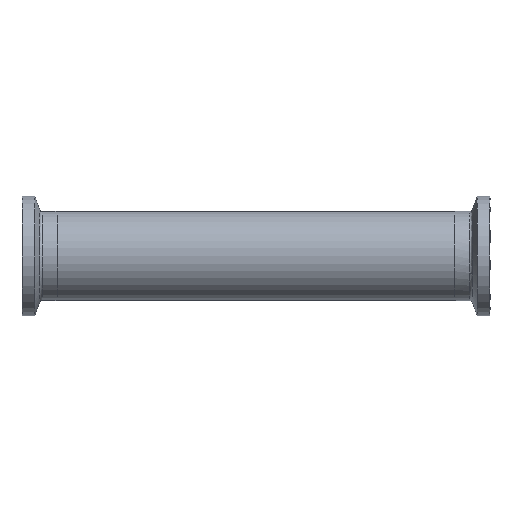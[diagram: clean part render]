
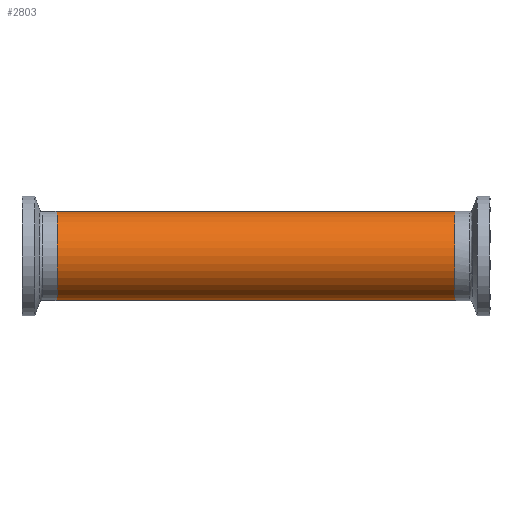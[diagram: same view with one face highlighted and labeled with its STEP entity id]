
A CAD part, front view. The second image highlights one B-rep face of the part: STEP entity #2803.
In plain terms, the highlighted cylindrical face has radius 12.7 mm (diameter 25.4 mm), a partial arc.
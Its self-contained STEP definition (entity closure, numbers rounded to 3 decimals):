
#59 = CARTESIAN_POINT ( 'NONE',  ( 92.621, 0., -12.7 ) ) ;
#95 = ORIENTED_EDGE ( 'NONE', *, *, #2571, .T. ) ;
#265 = VERTEX_POINT ( 'NONE', #964 ) ;
#404 = CARTESIAN_POINT ( 'NONE',  ( -56.7, 0., 0. ) ) ;
#421 = AXIS2_PLACEMENT_3D ( 'NONE', #404, #1954, #630 ) ;
#448 = FACE_OUTER_BOUND ( 'NONE', #1591, .T. ) ;
#519 = CARTESIAN_POINT ( 'NONE',  ( 92.621, 0., 0. ) ) ;
#581 = VECTOR ( 'NONE', #610, 1000. ) ;
#610 = DIRECTION ( 'NONE',  ( -1., 0., 0. ) ) ;
#617 = AXIS2_PLACEMENT_3D ( 'NONE', #1083, #2615, #1318 ) ;
#630 = DIRECTION ( 'NONE',  ( 0., 0., 1. ) ) ;
#768 = EDGE_CURVE ( 'NONE', #2826, #265, #1778, .T. ) ;
#872 = CARTESIAN_POINT ( 'NONE',  ( 92.621, 0., 12.7 ) ) ;
#964 = CARTESIAN_POINT ( 'NONE',  ( -56.7, 0., -12.7 ) ) ;
#1079 = DIRECTION ( 'NONE',  ( -1., 0., 0. ) ) ;
#1083 = CARTESIAN_POINT ( 'NONE',  ( 56.7, 0., 0. ) ) ;
#1232 = CARTESIAN_POINT ( 'NONE',  ( 56.7, 0., -12.7 ) ) ;
#1318 = DIRECTION ( 'NONE',  ( 0., 0., 1. ) ) ;
#1571 = CYLINDRICAL_SURFACE ( 'NONE', #2402, 12.7 ) ;
#1574 = CIRCLE ( 'NONE', #617, 12.7 ) ;
#1591 = EDGE_LOOP ( 'NONE', ( #2318, #2066, #95, #1942 ) ) ;
#1729 = CIRCLE ( 'NONE', #421, 12.7 ) ;
#1778 = LINE ( 'NONE', #59, #581 ) ;
#1787 = VERTEX_POINT ( 'NONE', #2569 ) ;
#1942 = ORIENTED_EDGE ( 'NONE', *, *, #2492, .T. ) ;
#1954 = DIRECTION ( 'NONE',  ( 1., 0., 0. ) ) ;
#1971 = VECTOR ( 'NONE', #1079, 1000. ) ;
#2041 = LINE ( 'NONE', #872, #1971 ) ;
#2066 = ORIENTED_EDGE ( 'NONE', *, *, #2282, .T. ) ;
#2088 = DIRECTION ( 'NONE',  ( -1., 0., 0. ) ) ;
#2199 = VERTEX_POINT ( 'NONE', #2544 ) ;
#2282 = EDGE_CURVE ( 'NONE', #2826, #1787, #1574, .T. ) ;
#2290 = DIRECTION ( 'NONE',  ( 0., 0., 1. ) ) ;
#2318 = ORIENTED_EDGE ( 'NONE', *, *, #768, .F. ) ;
#2402 = AXIS2_PLACEMENT_3D ( 'NONE', #519, #2088, #2290 ) ;
#2492 = EDGE_CURVE ( 'NONE', #2199, #265, #1729, .T. ) ;
#2544 = CARTESIAN_POINT ( 'NONE',  ( -56.7, 0., 12.7 ) ) ;
#2569 = CARTESIAN_POINT ( 'NONE',  ( 56.7, 0., 12.7 ) ) ;
#2571 = EDGE_CURVE ( 'NONE', #1787, #2199, #2041, .T. ) ;
#2615 = DIRECTION ( 'NONE',  ( -1., 0., 0. ) ) ;
#2803 = ADVANCED_FACE ( 'NONE', ( #448 ), #1571, .T. ) ;
#2826 = VERTEX_POINT ( 'NONE', #1232 ) ;
